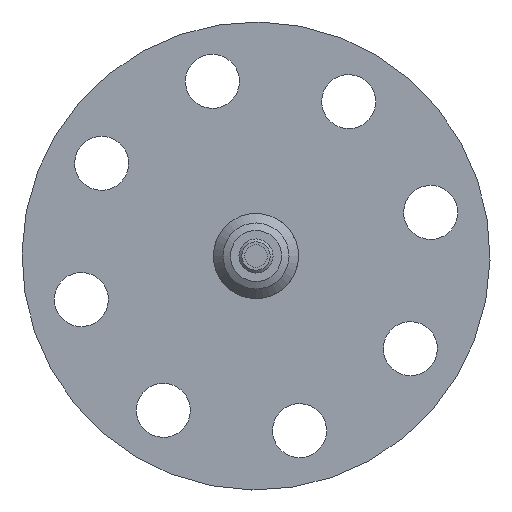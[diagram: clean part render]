
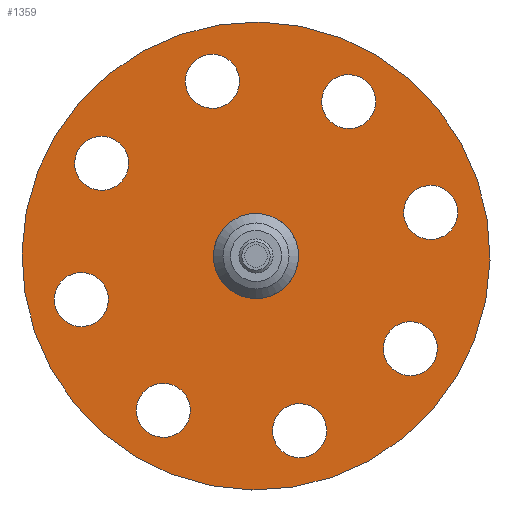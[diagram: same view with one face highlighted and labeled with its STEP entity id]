
A CAD part, front view. The second image highlights one B-rep face of the part: STEP entity #1359.
In plain terms, the highlighted planar face has unit normal (0, -1, 0).
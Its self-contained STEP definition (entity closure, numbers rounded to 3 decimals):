
#149=ORIENTED_EDGE('',*,*,#366,.T.);
#150=ORIENTED_EDGE('',*,*,#365,.T.);
#151=ORIENTED_EDGE('',*,*,#364,.T.);
#152=ORIENTED_EDGE('',*,*,#363,.T.);
#153=ORIENTED_EDGE('',*,*,#362,.T.);
#154=ORIENTED_EDGE('',*,*,#361,.T.);
#155=ORIENTED_EDGE('',*,*,#360,.T.);
#156=ORIENTED_EDGE('',*,*,#359,.T.);
#157=ORIENTED_EDGE('',*,*,#358,.T.);
#158=ORIENTED_EDGE('',*,*,#357,.F.);
#357=EDGE_CURVE('',#471,#471,#555,.T.);
#358=EDGE_CURVE('',#472,#472,#556,.T.);
#359=EDGE_CURVE('',#473,#473,#557,.T.);
#360=EDGE_CURVE('',#474,#474,#558,.T.);
#361=EDGE_CURVE('',#475,#475,#559,.T.);
#362=EDGE_CURVE('',#476,#476,#560,.T.);
#363=EDGE_CURVE('',#477,#477,#561,.T.);
#364=EDGE_CURVE('',#478,#478,#562,.T.);
#365=EDGE_CURVE('',#479,#479,#563,.T.);
#366=EDGE_CURVE('',#480,#480,#564,.T.);
#471=VERTEX_POINT('',#1838);
#472=VERTEX_POINT('',#1841);
#473=VERTEX_POINT('',#1844);
#474=VERTEX_POINT('',#1847);
#475=VERTEX_POINT('',#1850);
#476=VERTEX_POINT('',#1853);
#477=VERTEX_POINT('',#1856);
#478=VERTEX_POINT('',#1859);
#479=VERTEX_POINT('',#1862);
#480=VERTEX_POINT('',#1865);
#555=CIRCLE('',#1436,82.55);
#556=CIRCLE('',#1438,9.525);
#557=CIRCLE('',#1440,9.525);
#558=CIRCLE('',#1442,9.525);
#559=CIRCLE('',#1444,9.525);
#560=CIRCLE('',#1446,9.525);
#561=CIRCLE('',#1448,9.525);
#562=CIRCLE('',#1450,9.525);
#563=CIRCLE('',#1452,9.525);
#564=CIRCLE('',#1454,15.);
#649=EDGE_LOOP('',(#149));
#650=EDGE_LOOP('',(#150));
#651=EDGE_LOOP('',(#151));
#652=EDGE_LOOP('',(#152));
#653=EDGE_LOOP('',(#153));
#654=EDGE_LOOP('',(#154));
#655=EDGE_LOOP('',(#155));
#656=EDGE_LOOP('',(#156));
#657=EDGE_LOOP('',(#157));
#658=EDGE_LOOP('',(#158));
#769=FACE_BOUND('',#649,.T.);
#770=FACE_BOUND('',#650,.T.);
#771=FACE_BOUND('',#651,.T.);
#772=FACE_BOUND('',#652,.T.);
#773=FACE_BOUND('',#653,.T.);
#774=FACE_BOUND('',#654,.T.);
#775=FACE_BOUND('',#655,.T.);
#776=FACE_BOUND('',#656,.T.);
#777=FACE_BOUND('',#657,.T.);
#778=FACE_BOUND('',#658,.T.);
#859=PLANE('',#1453);
#1359=ADVANCED_FACE('',(#769,#770,#771,#772,#773,#774,#775,#776,#777,#778),
#859,.F.);
#1436=AXIS2_PLACEMENT_3D('',#1837,#1580,#1581);
#1438=AXIS2_PLACEMENT_3D('',#1840,#1584,#1585);
#1440=AXIS2_PLACEMENT_3D('',#1843,#1588,#1589);
#1442=AXIS2_PLACEMENT_3D('',#1846,#1592,#1593);
#1444=AXIS2_PLACEMENT_3D('',#1849,#1596,#1597);
#1446=AXIS2_PLACEMENT_3D('',#1852,#1600,#1601);
#1448=AXIS2_PLACEMENT_3D('',#1855,#1604,#1605);
#1450=AXIS2_PLACEMENT_3D('',#1858,#1608,#1609);
#1452=AXIS2_PLACEMENT_3D('',#1861,#1612,#1613);
#1453=AXIS2_PLACEMENT_3D('',#1863,#1614,#1615);
#1454=AXIS2_PLACEMENT_3D('',#1864,#1616,#1617);
#1580=DIRECTION('',(0.,1.,0.));
#1581=DIRECTION('',(-0.515,0.,-0.857));
#1584=DIRECTION('',(0.,1.,0.));
#1585=DIRECTION('',(-0.515,0.,-0.857));
#1588=DIRECTION('',(0.,1.,0.));
#1589=DIRECTION('',(-0.515,0.,-0.857));
#1592=DIRECTION('',(0.,1.,0.));
#1593=DIRECTION('',(-0.515,0.,-0.857));
#1596=DIRECTION('',(0.,1.,0.));
#1597=DIRECTION('',(-0.515,0.,-0.857));
#1600=DIRECTION('',(0.,1.,0.));
#1601=DIRECTION('',(-0.515,0.,-0.857));
#1604=DIRECTION('',(0.,1.,0.));
#1605=DIRECTION('',(-0.515,0.,-0.857));
#1608=DIRECTION('',(0.,1.,0.));
#1609=DIRECTION('',(-0.515,0.,-0.857));
#1612=DIRECTION('',(0.,1.,0.));
#1613=DIRECTION('',(-0.515,0.,-0.857));
#1614=DIRECTION('',(0.,1.,0.));
#1615=DIRECTION('',(0.515,0.,0.857));
#1616=DIRECTION('',(0.,1.,0.));
#1617=DIRECTION('',(-0.857,0.,0.515));
#1837=CARTESIAN_POINT('',(0.,-217.912,0.));
#1838=CARTESIAN_POINT('',(-42.5,-217.912,-70.769));
#1840=CARTESIAN_POINT('',(32.692,-217.912,54.438));
#1841=CARTESIAN_POINT('',(27.788,-217.912,46.272));
#1843=CARTESIAN_POINT('',(61.61,-217.912,15.376));
#1844=CARTESIAN_POINT('',(56.706,-217.912,7.211));
#1846=CARTESIAN_POINT('',(54.438,-217.912,-32.692));
#1847=CARTESIAN_POINT('',(49.534,-217.912,-40.858));
#1849=CARTESIAN_POINT('',(15.376,-217.912,-61.61));
#1850=CARTESIAN_POINT('',(10.473,-217.912,-69.776));
#1852=CARTESIAN_POINT('',(-32.692,-217.912,-54.438));
#1853=CARTESIAN_POINT('',(-37.596,-217.912,-62.603));
#1855=CARTESIAN_POINT('',(-61.61,-217.912,-15.376));
#1856=CARTESIAN_POINT('',(-66.514,-217.912,-23.542));
#1858=CARTESIAN_POINT('',(-54.438,-217.912,32.692));
#1859=CARTESIAN_POINT('',(-59.342,-217.912,24.527));
#1861=CARTESIAN_POINT('',(-15.376,-217.912,61.61));
#1862=CARTESIAN_POINT('',(-20.28,-217.912,53.445));
#1863=CARTESIAN_POINT('',(-70.769,-217.912,42.5));
#1864=CARTESIAN_POINT('',(0.,-217.912,0.));
#1865=CARTESIAN_POINT('',(-12.859,-217.912,7.723));
